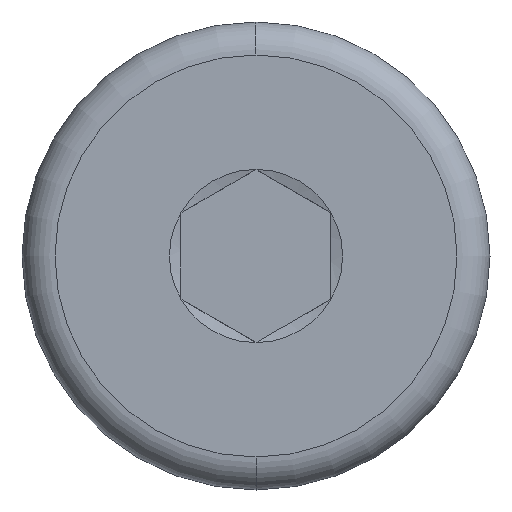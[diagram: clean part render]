
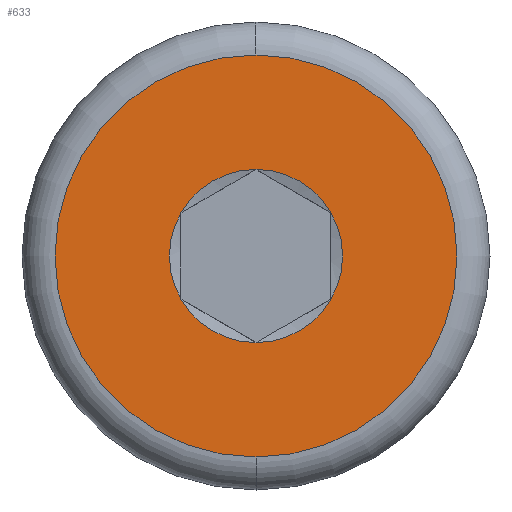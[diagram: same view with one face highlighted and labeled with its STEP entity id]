
A CAD part, left-side view. The second image highlights one B-rep face of the part: STEP entity #633.
In plain terms, the highlighted planar face has unit normal (-1, 0, 0).
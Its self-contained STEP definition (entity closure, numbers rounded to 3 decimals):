
#4 = EDGE_LOOP ( 'NONE', ( #506, #282, #225, #409, #313, #604 ) ) ;
#24 = EDGE_CURVE ( 'NONE', #449, #563, #349, .T. ) ;
#32 = CARTESIAN_POINT ( 'NONE',  ( 0., 0., 0. ) ) ;
#47 = VERTEX_POINT ( 'NONE', #339 ) ;
#54 = AXIS2_PLACEMENT_3D ( 'NONE', #425, #594, #500 ) ;
#56 = EDGE_CURVE ( 'NONE', #181, #267, #144, .T. ) ;
#81 = DIRECTION ( 'NONE',  ( 0., 0., -1. ) ) ;
#82 = EDGE_CURVE ( 'NONE', #278, #47, #286, .T. ) ;
#83 = DIRECTION ( 'NONE',  ( 1., 0., 0. ) ) ;
#105 = CARTESIAN_POINT ( 'NONE',  ( 0., 0., 0. ) ) ;
#124 = CARTESIAN_POINT ( 'NONE',  ( 0., 2.5, -1.443 ) ) ;
#129 = AXIS2_PLACEMENT_3D ( 'NONE', #602, #547, #81 ) ;
#133 = DIRECTION ( 'NONE',  ( 1., 0., 0. ) ) ;
#134 = EDGE_CURVE ( 'NONE', #267, #397, #517, .T. ) ;
#137 = DIRECTION ( 'NONE',  ( 0., 0., -1. ) ) ;
#144 = CIRCLE ( 'NONE', #403, 2.887 ) ;
#151 = DIRECTION ( 'NONE',  ( 0., 0., 1. ) ) ;
#181 = VERTEX_POINT ( 'NONE', #556 ) ;
#186 = AXIS2_PLACEMENT_3D ( 'NONE', #32, #343, #151 ) ;
#188 = CARTESIAN_POINT ( 'NONE',  ( 0., 0., 0. ) ) ;
#196 = AXIS2_PLACEMENT_3D ( 'NONE', #386, #83, #591 ) ;
#201 = CARTESIAN_POINT ( 'NONE',  ( 0., 0., 2.887 ) ) ;
#225 = ORIENTED_EDGE ( 'NONE', *, *, #675, .T. ) ;
#230 = DIRECTION ( 'NONE',  ( 1., 0., 0. ) ) ;
#240 = PLANE ( 'NONE',  #186 ) ;
#261 = CARTESIAN_POINT ( 'NONE',  ( 0., -2.5, -1.443 ) ) ;
#267 = VERTEX_POINT ( 'NONE', #201 ) ;
#278 = VERTEX_POINT ( 'NONE', #261 ) ;
#280 = CARTESIAN_POINT ( 'NONE',  ( 0., 0., 6.7 ) ) ;
#282 = ORIENTED_EDGE ( 'NONE', *, *, #134, .T. ) ;
#286 = CIRCLE ( 'NONE', #549, 2.887 ) ;
#291 = FACE_BOUND ( 'NONE', #4, .T. ) ;
#296 = CARTESIAN_POINT ( 'NONE',  ( 0., 0., 0. ) ) ;
#313 = ORIENTED_EDGE ( 'NONE', *, *, #475, .T. ) ;
#323 = DIRECTION ( 'NONE',  ( 0., 0., -1. ) ) ;
#339 = CARTESIAN_POINT ( 'NONE',  ( 0., 0., -2.887 ) ) ;
#343 = DIRECTION ( 'NONE',  ( -1., 0., 0. ) ) ;
#349 = CIRCLE ( 'NONE', #54, 6.7 ) ;
#360 = VERTEX_POINT ( 'NONE', #124 ) ;
#371 = CIRCLE ( 'NONE', #595, 2.887 ) ;
#382 = CARTESIAN_POINT ( 'NONE',  ( 0., 0., 0. ) ) ;
#384 = CARTESIAN_POINT ( 'NONE',  ( 0., -2.5, 1.443 ) ) ;
#386 = CARTESIAN_POINT ( 'NONE',  ( 0., 0., 0. ) ) ;
#391 = CARTESIAN_POINT ( 'NONE',  ( 0., 0., -6.7 ) ) ;
#393 = DIRECTION ( 'NONE',  ( 1., 0., 0. ) ) ;
#394 = CARTESIAN_POINT ( 'NONE',  ( 0., 0., 0. ) ) ;
#397 = VERTEX_POINT ( 'NONE', #384 ) ;
#403 = AXIS2_PLACEMENT_3D ( 'NONE', #394, #133, #137 ) ;
#409 = ORIENTED_EDGE ( 'NONE', *, *, #82, .T. ) ;
#424 = CIRCLE ( 'NONE', #129, 2.887 ) ;
#425 = CARTESIAN_POINT ( 'NONE',  ( 0., 0., 0. ) ) ;
#445 = DIRECTION ( 'NONE',  ( 0., 0., -1. ) ) ;
#449 = VERTEX_POINT ( 'NONE', #280 ) ;
#454 = DIRECTION ( 'NONE',  ( 0., 0., -1. ) ) ;
#466 = AXIS2_PLACEMENT_3D ( 'NONE', #188, #393, #454 ) ;
#475 = EDGE_CURVE ( 'NONE', #47, #360, #580, .T. ) ;
#476 = DIRECTION ( 'NONE',  ( 0., 0., -1. ) ) ;
#498 = FACE_OUTER_BOUND ( 'NONE', #665, .T. ) ;
#500 = DIRECTION ( 'NONE',  ( 0., 0., -1. ) ) ;
#506 = ORIENTED_EDGE ( 'NONE', *, *, #56, .T. ) ;
#509 = ORIENTED_EDGE ( 'NONE', *, *, #24, .F. ) ;
#517 = CIRCLE ( 'NONE', #196, 2.887 ) ;
#547 = DIRECTION ( 'NONE',  ( 1., 0., 0. ) ) ;
#549 = AXIS2_PLACEMENT_3D ( 'NONE', #296, #230, #445 ) ;
#556 = CARTESIAN_POINT ( 'NONE',  ( 0., 2.5, 1.443 ) ) ;
#563 = VERTEX_POINT ( 'NONE', #391 ) ;
#566 = DIRECTION ( 'NONE',  ( 1., 0., 0. ) ) ;
#572 = EDGE_CURVE ( 'NONE', #563, #449, #615, .T. ) ;
#579 = DIRECTION ( 'NONE',  ( 1., 0., 0. ) ) ;
#580 = CIRCLE ( 'NONE', #677, 2.887 ) ;
#591 = DIRECTION ( 'NONE',  ( 0., 0., -1. ) ) ;
#594 = DIRECTION ( 'NONE',  ( 1., 0., 0. ) ) ;
#595 = AXIS2_PLACEMENT_3D ( 'NONE', #105, #566, #476 ) ;
#600 = ORIENTED_EDGE ( 'NONE', *, *, #572, .F. ) ;
#602 = CARTESIAN_POINT ( 'NONE',  ( 0., 0., 0. ) ) ;
#604 = ORIENTED_EDGE ( 'NONE', *, *, #647, .T. ) ;
#615 = CIRCLE ( 'NONE', #466, 6.7 ) ;
#633 = ADVANCED_FACE ( 'NONE', ( #291, #498 ), #240, .T. ) ;
#647 = EDGE_CURVE ( 'NONE', #360, #181, #424, .T. ) ;
#665 = EDGE_LOOP ( 'NONE', ( #600, #509 ) ) ;
#675 = EDGE_CURVE ( 'NONE', #397, #278, #371, .T. ) ;
#677 = AXIS2_PLACEMENT_3D ( 'NONE', #382, #579, #323 ) ;
